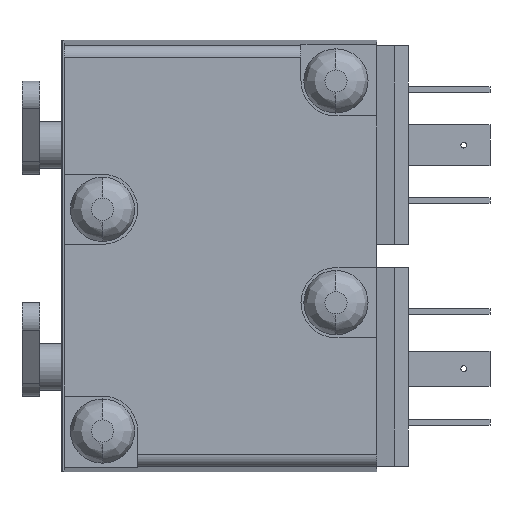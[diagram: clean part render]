
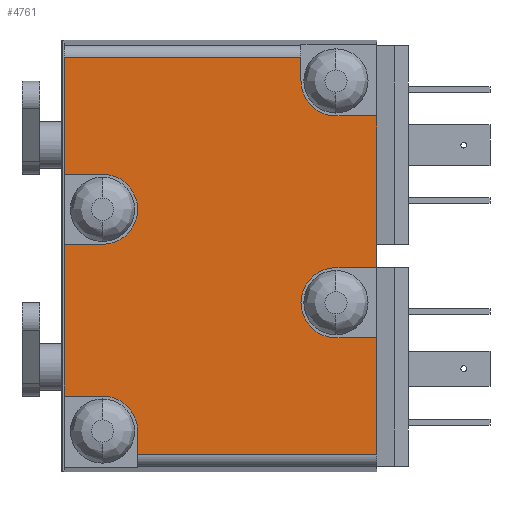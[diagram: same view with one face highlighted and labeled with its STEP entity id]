
A CAD part, left-side view. The second image highlights one B-rep face of the part: STEP entity #4761.
In plain terms, the highlighted planar face has unit normal (-1, 0, 0).
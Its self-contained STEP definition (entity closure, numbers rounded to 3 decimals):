
#20 = DIRECTION ( 'NONE',  ( 0., 0., -1. ) ) ;
#159 = ORIENTED_EDGE ( 'NONE', *, *, #4741, .T. ) ;
#164 = FACE_OUTER_BOUND ( 'NONE', #392, .T. ) ;
#171 = AXIS2_PLACEMENT_3D ( 'NONE', #5876, #5934, #1601 ) ;
#207 = LINE ( 'NONE', #2543, #2070 ) ;
#214 = EDGE_CURVE ( 'NONE', #3818, #5305, #459, .T. ) ;
#230 = ORIENTED_EDGE ( 'NONE', *, *, #4381, .T. ) ;
#239 = EDGE_CURVE ( 'NONE', #5465, #2666, #1920, .T. ) ;
#249 = EDGE_CURVE ( 'NONE', #1850, #3154, #4124, .T. ) ;
#332 = EDGE_CURVE ( 'NONE', #2870, #5465, #4523, .T. ) ;
#334 = CARTESIAN_POINT ( 'NONE',  ( -66.5, 38., -97.5 ) ) ;
#370 = VERTEX_POINT ( 'NONE', #3523 ) ;
#374 = LINE ( 'NONE', #5769, #5398 ) ;
#392 = EDGE_LOOP ( 'NONE', ( #5458, #4167, #5831, #4851, #2165, #422, #4756, #3554, #230, #5713, #159, #4004, #6111, #5293, #2441, #978, #4742, #1215 ) ) ;
#422 = ORIENTED_EDGE ( 'NONE', *, *, #4270, .T. ) ;
#459 = LINE ( 'NONE', #6135, #4022 ) ;
#484 = EDGE_CURVE ( 'NONE', #5255, #755, #4298, .T. ) ;
#619 = VECTOR ( 'NONE', #4545, 1000. ) ;
#638 = CARTESIAN_POINT ( 'NONE',  ( -66.5, 41.5, -78.5 ) ) ;
#695 = LINE ( 'NONE', #5418, #2098 ) ;
#755 = VERTEX_POINT ( 'NONE', #1665 ) ;
#855 = CARTESIAN_POINT ( 'NONE',  ( -66.5, 35., -100.5 ) ) ;
#877 = LINE ( 'NONE', #4693, #4362 ) ;
#978 = ORIENTED_EDGE ( 'NONE', *, *, #4876, .T. ) ;
#988 = DIRECTION ( 'NONE',  ( 0., 1., 0. ) ) ;
#1058 = LINE ( 'NONE', #1624, #4320 ) ;
#1215 = ORIENTED_EDGE ( 'NONE', *, *, #3933, .F. ) ;
#1271 = CIRCLE ( 'NONE', #2860, 3. ) ;
#1304 = DIRECTION ( 'NONE',  ( 0., 0., -1. ) ) ;
#1368 = DIRECTION ( 'NONE',  ( 1., 0., 0. ) ) ;
#1459 = DIRECTION ( 'NONE',  ( 1., 0., 0. ) ) ;
#1526 = AXIS2_PLACEMENT_3D ( 'NONE', #5678, #3893, #3863 ) ;
#1601 = DIRECTION ( 'NONE',  ( 0., 1., 0. ) ) ;
#1624 = CARTESIAN_POINT ( 'NONE',  ( -66.5, 41.3, -102.549 ) ) ;
#1653 = LINE ( 'NONE', #4530, #5611 ) ;
#1659 = VERTEX_POINT ( 'NONE', #4153 ) ;
#1665 = CARTESIAN_POINT ( 'NONE',  ( -66.5, 35., -102.549 ) ) ;
#1674 = VERTEX_POINT ( 'NONE', #5095 ) ;
#1850 = VERTEX_POINT ( 'NONE', #2331 ) ;
#1914 = VERTEX_POINT ( 'NONE', #5331 ) ;
#1915 = CARTESIAN_POINT ( 'NONE',  ( -66.5, 38., -78.5 ) ) ;
#1920 = CIRCLE ( 'NONE', #1526, 3. ) ;
#1950 = DIRECTION ( 'NONE',  ( 0., -1., 0. ) ) ;
#1963 = EDGE_CURVE ( 'NONE', #5605, #1850, #3022, .T. ) ;
#1973 = VECTOR ( 'NONE', #3017, 1000. ) ;
#1983 = DIRECTION ( 'NONE',  ( 0., 0., 1. ) ) ;
#2070 = VECTOR ( 'NONE', #1983, 1000. ) ;
#2092 = PLANE ( 'NONE',  #171 ) ;
#2098 = VECTOR ( 'NONE', #5505, 1000. ) ;
#2165 = ORIENTED_EDGE ( 'NONE', *, *, #214, .T. ) ;
#2187 = CARTESIAN_POINT ( 'NONE',  ( -66.5, 41.3, -84.5 ) ) ;
#2310 = EDGE_CURVE ( 'NONE', #1914, #2411, #3066, .T. ) ;
#2331 = CARTESIAN_POINT ( 'NONE',  ( -66.5, 18., -73.5 ) ) ;
#2342 = EDGE_CURVE ( 'NONE', #3818, #3167, #695, .T. ) ;
#2367 = CIRCLE ( 'NONE', #3175, 3. ) ;
#2411 = VERTEX_POINT ( 'NONE', #5473 ) ;
#2441 = ORIENTED_EDGE ( 'NONE', *, *, #249, .T. ) ;
#2513 = VECTOR ( 'NONE', #1304, 1000. ) ;
#2543 = CARTESIAN_POINT ( 'NONE',  ( -66.5, 14.5, -102.549 ) ) ;
#2666 = VERTEX_POINT ( 'NONE', #4351 ) ;
#2695 = CARTESIAN_POINT ( 'NONE',  ( -66.5, 14.5, -102.549 ) ) ;
#2860 = AXIS2_PLACEMENT_3D ( 'NONE', #3510, #4950, #5470 ) ;
#2870 = VERTEX_POINT ( 'NONE', #6114 ) ;
#2964 = DIRECTION ( 'NONE',  ( 0., 0., 1. ) ) ;
#2982 = EDGE_CURVE ( 'NONE', #4418, #370, #374, .T. ) ;
#3016 = DIRECTION ( 'NONE',  ( 0., -1., 0. ) ) ;
#3017 = DIRECTION ( 'NONE',  ( 0., 0., 1. ) ) ;
#3022 = LINE ( 'NONE', #5457, #4214 ) ;
#3046 = DIRECTION ( 'NONE',  ( 0., 1., 0. ) ) ;
#3066 = LINE ( 'NONE', #4013, #619 ) ;
#3154 = VERTEX_POINT ( 'NONE', #5138 ) ;
#3167 = VERTEX_POINT ( 'NONE', #2187 ) ;
#3175 = AXIS2_PLACEMENT_3D ( 'NONE', #5646, #1368, #5241 ) ;
#3293 = LINE ( 'NONE', #4232, #4772 ) ;
#3356 = VERTEX_POINT ( 'NONE', #2695 ) ;
#3510 = CARTESIAN_POINT ( 'NONE',  ( -66.5, 18., -89.5 ) ) ;
#3523 = CARTESIAN_POINT ( 'NONE',  ( -66.5, 18., -92.5 ) ) ;
#3554 = ORIENTED_EDGE ( 'NONE', *, *, #3924, .T. ) ;
#3758 = DIRECTION ( 'NONE',  ( 0., 0., 1. ) ) ;
#3818 = VERTEX_POINT ( 'NONE', #6051 ) ;
#3828 = VECTOR ( 'NONE', #3016, 1000. ) ;
#3863 = DIRECTION ( 'NONE',  ( 0., 0., -1. ) ) ;
#3893 = DIRECTION ( 'NONE',  ( 1., 0., 0. ) ) ;
#3924 = EDGE_CURVE ( 'NONE', #755, #3356, #1058, .T. ) ;
#3933 = EDGE_CURVE ( 'NONE', #2870, #1674, #1653, .T. ) ;
#4004 = ORIENTED_EDGE ( 'NONE', *, *, #2310, .T. ) ;
#4013 = CARTESIAN_POINT ( 'NONE',  ( -66.5, 18., -86.5 ) ) ;
#4022 = VECTOR ( 'NONE', #1950, 1000. ) ;
#4085 = CARTESIAN_POINT ( 'NONE',  ( -66.5, 38., -84.5 ) ) ;
#4124 = CIRCLE ( 'NONE', #4927, 3. ) ;
#4148 = CARTESIAN_POINT ( 'NONE',  ( -66.5, 35., -100.5 ) ) ;
#4153 = CARTESIAN_POINT ( 'NONE',  ( -66.5, 21., -68.451 ) ) ;
#4167 = ORIENTED_EDGE ( 'NONE', *, *, #239, .T. ) ;
#4201 = DIRECTION ( 'NONE',  ( 0., -1., 0. ) ) ;
#4214 = VECTOR ( 'NONE', #4877, 1000. ) ;
#4232 = CARTESIAN_POINT ( 'NONE',  ( -66.5, 41.3, -68.451 ) ) ;
#4270 = EDGE_CURVE ( 'NONE', #5305, #5255, #2367, .T. ) ;
#4298 = LINE ( 'NONE', #4148, #2513 ) ;
#4320 = VECTOR ( 'NONE', #5952, 1000. ) ;
#4332 = EDGE_CURVE ( 'NONE', #2411, #5605, #207, .T. ) ;
#4351 = CARTESIAN_POINT ( 'NONE',  ( -66.5, 38., -84.5 ) ) ;
#4362 = VECTOR ( 'NONE', #3758, 1000. ) ;
#4381 = EDGE_CURVE ( 'NONE', #3356, #4418, #5857, .T. ) ;
#4399 = CARTESIAN_POINT ( 'NONE',  ( -66.5, 14.5, -102.549 ) ) ;
#4418 = VERTEX_POINT ( 'NONE', #5791 ) ;
#4450 = EDGE_CURVE ( 'NONE', #1674, #1659, #3293, .T. ) ;
#4523 = LINE ( 'NONE', #638, #3828 ) ;
#4530 = CARTESIAN_POINT ( 'NONE',  ( -66.5, 41.3, -102.549 ) ) ;
#4545 = DIRECTION ( 'NONE',  ( 0., -1., 0. ) ) ;
#4693 = CARTESIAN_POINT ( 'NONE',  ( -66.5, 21., -70.5 ) ) ;
#4741 = EDGE_CURVE ( 'NONE', #370, #1914, #1271, .T. ) ;
#4742 = ORIENTED_EDGE ( 'NONE', *, *, #4450, .F. ) ;
#4756 = ORIENTED_EDGE ( 'NONE', *, *, #484, .T. ) ;
#4761 = ADVANCED_FACE ( 'NONE', ( #164 ), #2092, .F. ) ;
#4772 = VECTOR ( 'NONE', #4201, 1000. ) ;
#4851 = ORIENTED_EDGE ( 'NONE', *, *, #2342, .F. ) ;
#4876 = EDGE_CURVE ( 'NONE', #3154, #1659, #877, .T. ) ;
#4877 = DIRECTION ( 'NONE',  ( 0., 1., 0. ) ) ;
#4927 = AXIS2_PLACEMENT_3D ( 'NONE', #5763, #1459, #20 ) ;
#4950 = DIRECTION ( 'NONE',  ( 1., 0., 0. ) ) ;
#5095 = CARTESIAN_POINT ( 'NONE',  ( -66.5, 41.3, -68.451 ) ) ;
#5138 = CARTESIAN_POINT ( 'NONE',  ( -66.5, 21., -70.5 ) ) ;
#5241 = DIRECTION ( 'NONE',  ( 0., 0., -1. ) ) ;
#5255 = VERTEX_POINT ( 'NONE', #855 ) ;
#5293 = ORIENTED_EDGE ( 'NONE', *, *, #1963, .T. ) ;
#5305 = VERTEX_POINT ( 'NONE', #334 ) ;
#5331 = CARTESIAN_POINT ( 'NONE',  ( -66.5, 18., -86.5 ) ) ;
#5398 = VECTOR ( 'NONE', #988, 1000. ) ;
#5418 = CARTESIAN_POINT ( 'NONE',  ( -66.5, 41.3, -102.549 ) ) ;
#5457 = CARTESIAN_POINT ( 'NONE',  ( -66.5, 14.5, -73.5 ) ) ;
#5458 = ORIENTED_EDGE ( 'NONE', *, *, #332, .T. ) ;
#5465 = VERTEX_POINT ( 'NONE', #1915 ) ;
#5470 = DIRECTION ( 'NONE',  ( 0., 0., -1. ) ) ;
#5473 = CARTESIAN_POINT ( 'NONE',  ( -66.5, 14.5, -86.5 ) ) ;
#5505 = DIRECTION ( 'NONE',  ( 0., 0., 1. ) ) ;
#5587 = VECTOR ( 'NONE', #3046, 1000. ) ;
#5605 = VERTEX_POINT ( 'NONE', #5964 ) ;
#5611 = VECTOR ( 'NONE', #2964, 1000. ) ;
#5646 = CARTESIAN_POINT ( 'NONE',  ( -66.5, 38., -100.5 ) ) ;
#5678 = CARTESIAN_POINT ( 'NONE',  ( -66.5, 38., -81.5 ) ) ;
#5713 = ORIENTED_EDGE ( 'NONE', *, *, #2982, .T. ) ;
#5763 = CARTESIAN_POINT ( 'NONE',  ( -66.5, 18., -70.5 ) ) ;
#5769 = CARTESIAN_POINT ( 'NONE',  ( -66.5, 14.5, -92.5 ) ) ;
#5791 = CARTESIAN_POINT ( 'NONE',  ( -66.5, 14.5, -92.5 ) ) ;
#5831 = ORIENTED_EDGE ( 'NONE', *, *, #5913, .T. ) ;
#5857 = LINE ( 'NONE', #4399, #1973 ) ;
#5876 = CARTESIAN_POINT ( 'NONE',  ( -66.5, 41.3, -102.549 ) ) ;
#5913 = EDGE_CURVE ( 'NONE', #2666, #3167, #5920, .T. ) ;
#5920 = LINE ( 'NONE', #4085, #5587 ) ;
#5934 = DIRECTION ( 'NONE',  ( 1., 0., 0. ) ) ;
#5952 = DIRECTION ( 'NONE',  ( 0., -1., 0. ) ) ;
#5964 = CARTESIAN_POINT ( 'NONE',  ( -66.5, 14.5, -73.5 ) ) ;
#6051 = CARTESIAN_POINT ( 'NONE',  ( -66.5, 41.3, -97.5 ) ) ;
#6111 = ORIENTED_EDGE ( 'NONE', *, *, #4332, .T. ) ;
#6114 = CARTESIAN_POINT ( 'NONE',  ( -66.5, 41.3, -78.5 ) ) ;
#6135 = CARTESIAN_POINT ( 'NONE',  ( -66.5, 41.5, -97.5 ) ) ;
